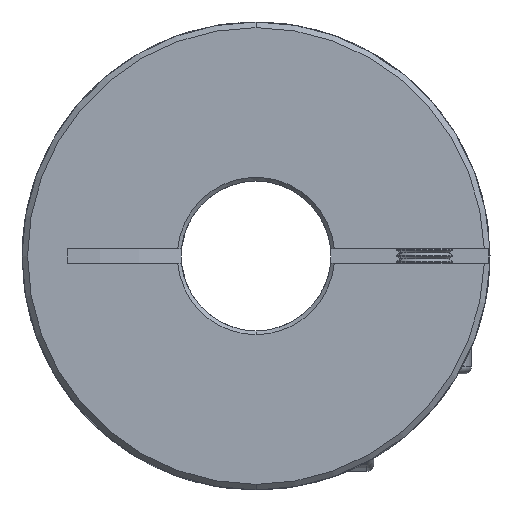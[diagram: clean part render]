
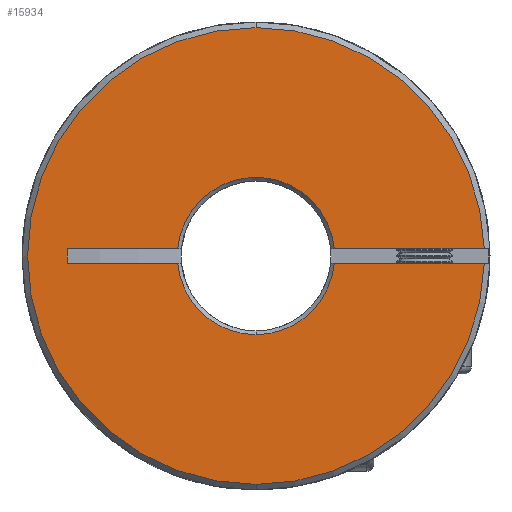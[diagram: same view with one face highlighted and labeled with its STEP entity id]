
A CAD part, front view. The second image highlights one B-rep face of the part: STEP entity #15934.
In plain terms, the highlighted planar face has unit normal (0, -1, 0).
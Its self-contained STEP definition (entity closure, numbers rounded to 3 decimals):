
#59 = DIRECTION ( 'NONE',  ( 0., 0., 1. ) ) ;
#293 = VECTOR ( 'NONE', #3725, 1000. ) ;
#366 = VECTOR ( 'NONE', #9851, 1000. ) ;
#463 = CARTESIAN_POINT ( 'NONE',  ( 0., 0., 24.4 ) ) ;
#530 = EDGE_CURVE ( 'NONE', #15262, #916, #11598, .T. ) ;
#544 = CARTESIAN_POINT ( 'NONE',  ( 24.388, 0., -0.75 ) ) ;
#587 = EDGE_CURVE ( 'NONE', #16908, #916, #10768, .T. ) ;
#796 = CARTESIAN_POINT ( 'NONE',  ( 0., 0., -24.4 ) ) ;
#916 = VERTEX_POINT ( 'NONE', #11571 ) ;
#1033 = AXIS2_PLACEMENT_3D ( 'NONE', #13501, #2606, #2674 ) ;
#1104 = CARTESIAN_POINT ( 'NONE',  ( 24.388, 0., 0.75 ) ) ;
#1202 = EDGE_CURVE ( 'NONE', #14370, #15262, #5256, .T. ) ;
#1333 = CARTESIAN_POINT ( 'NONE',  ( 0., 0., 0. ) ) ;
#1429 = CARTESIAN_POINT ( 'NONE',  ( 8.366, 0., -0.75 ) ) ;
#1492 = EDGE_CURVE ( 'NONE', #16476, #9334, #15177, .T. ) ;
#1570 = ORIENTED_EDGE ( 'NONE', *, *, #13848, .T. ) ;
#1710 = AXIS2_PLACEMENT_3D ( 'NONE', #5603, #4139, #59 ) ;
#1931 = CARTESIAN_POINT ( 'NONE',  ( -20.149, 0., -0.75 ) ) ;
#2477 = AXIS2_PLACEMENT_3D ( 'NONE', #1333, #13581, #6677 ) ;
#2509 = VERTEX_POINT ( 'NONE', #12536 ) ;
#2606 = DIRECTION ( 'NONE',  ( 0., 1., 0. ) ) ;
#2674 = DIRECTION ( 'NONE',  ( 0., 0., 1. ) ) ;
#2718 = AXIS2_PLACEMENT_3D ( 'NONE', #14842, #12279, #16252 ) ;
#2719 = VERTEX_POINT ( 'NONE', #3762 ) ;
#2785 = CARTESIAN_POINT ( 'NONE',  ( -50., 0., -0.75 ) ) ;
#2802 = CARTESIAN_POINT ( 'NONE',  ( 0., 0., 0. ) ) ;
#3282 = DIRECTION ( 'NONE',  ( 0., -1., 0. ) ) ;
#3351 = DIRECTION ( 'NONE',  ( 0., 1., 0. ) ) ;
#3725 = DIRECTION ( 'NONE',  ( 1., 0., 0. ) ) ;
#3762 = CARTESIAN_POINT ( 'NONE',  ( -8.366, 0., 0.75 ) ) ;
#3863 = AXIS2_PLACEMENT_3D ( 'NONE', #2802, #16384, #16270 ) ;
#4139 = DIRECTION ( 'NONE',  ( 0., 1., 0. ) ) ;
#4326 = LINE ( 'NONE', #10525, #293 ) ;
#4491 = EDGE_CURVE ( 'NONE', #2509, #2719, #15955, .T. ) ;
#4540 = ORIENTED_EDGE ( 'NONE', *, *, #1202, .T. ) ;
#5256 = CIRCLE ( 'NONE', #9752, 8.4 ) ;
#5328 = PLANE ( 'NONE',  #1710 ) ;
#5586 = AXIS2_PLACEMENT_3D ( 'NONE', #7324, #3282, #8639 ) ;
#5603 = CARTESIAN_POINT ( 'NONE',  ( -50., 0., 32.858 ) ) ;
#6044 = EDGE_CURVE ( 'NONE', #16908, #2509, #16973, .T. ) ;
#6079 = DIRECTION ( 'NONE',  ( 0., 0., 1. ) ) ;
#6132 = CIRCLE ( 'NONE', #5586, 24.4 ) ;
#6397 = CARTESIAN_POINT ( 'NONE',  ( -20.149, 0., -0.75 ) ) ;
#6677 = DIRECTION ( 'NONE',  ( 0., 0., 1. ) ) ;
#7324 = CARTESIAN_POINT ( 'NONE',  ( 0., 0., 0. ) ) ;
#7846 = VECTOR ( 'NONE', #8321, 1000. ) ;
#7947 = ORIENTED_EDGE ( 'NONE', *, *, #6044, .T. ) ;
#8321 = DIRECTION ( 'NONE',  ( 1., 0., 0. ) ) ;
#8639 = DIRECTION ( 'NONE',  ( 0., 0., 1. ) ) ;
#8685 = VECTOR ( 'NONE', #14905, 1000. ) ;
#8703 = CARTESIAN_POINT ( 'NONE',  ( 0., 0., 0. ) ) ;
#9124 = LINE ( 'NONE', #11030, #7846 ) ;
#9334 = VERTEX_POINT ( 'NONE', #463 ) ;
#9724 = CARTESIAN_POINT ( 'NONE',  ( 8.366, 0., 0.75 ) ) ;
#9752 = AXIS2_PLACEMENT_3D ( 'NONE', #8703, #3351, #10048 ) ;
#9851 = DIRECTION ( 'NONE',  ( 1., 0., 0. ) ) ;
#9856 = ORIENTED_EDGE ( 'NONE', *, *, #1492, .T. ) ;
#10048 = DIRECTION ( 'NONE',  ( 0., 0., 1. ) ) ;
#10068 = ORIENTED_EDGE ( 'NONE', *, *, #14347, .T. ) ;
#10128 = ORIENTED_EDGE ( 'NONE', *, *, #16600, .T. ) ;
#10525 = CARTESIAN_POINT ( 'NONE',  ( -50., 0., -0.75 ) ) ;
#10768 = LINE ( 'NONE', #2785, #8685 ) ;
#10943 = CIRCLE ( 'NONE', #3863, 24.4 ) ;
#11030 = CARTESIAN_POINT ( 'NONE',  ( -50., 0., 0.75 ) ) ;
#11302 = CARTESIAN_POINT ( 'NONE',  ( -50., 0., 0.75 ) ) ;
#11571 = CARTESIAN_POINT ( 'NONE',  ( -8.366, 0., -0.75 ) ) ;
#11598 = CIRCLE ( 'NONE', #2718, 8.4 ) ;
#12279 = DIRECTION ( 'NONE',  ( 0., 1., 0. ) ) ;
#12536 = CARTESIAN_POINT ( 'NONE',  ( -20.149, 0., 0.75 ) ) ;
#12921 = ORIENTED_EDGE ( 'NONE', *, *, #587, .F. ) ;
#12983 = VECTOR ( 'NONE', #6079, 1000. ) ;
#13158 = CARTESIAN_POINT ( 'NONE',  ( 0., 0., -8.4 ) ) ;
#13225 = ORIENTED_EDGE ( 'NONE', *, *, #15809, .F. ) ;
#13417 = CIRCLE ( 'NONE', #1033, 8.4 ) ;
#13501 = CARTESIAN_POINT ( 'NONE',  ( 0., 0., 0. ) ) ;
#13581 = DIRECTION ( 'NONE',  ( 0., -1., 0. ) ) ;
#13753 = FACE_OUTER_BOUND ( 'NONE', #14994, .T. ) ;
#13761 = ORIENTED_EDGE ( 'NONE', *, *, #16195, .T. ) ;
#13848 = EDGE_CURVE ( 'NONE', #15219, #13929, #10943, .T. ) ;
#13929 = VERTEX_POINT ( 'NONE', #544 ) ;
#14171 = ORIENTED_EDGE ( 'NONE', *, *, #530, .T. ) ;
#14341 = ORIENTED_EDGE ( 'NONE', *, *, #4491, .T. ) ;
#14347 = EDGE_CURVE ( 'NONE', #2719, #15455, #13417, .T. ) ;
#14370 = VERTEX_POINT ( 'NONE', #1429 ) ;
#14842 = CARTESIAN_POINT ( 'NONE',  ( 0., 0., 0. ) ) ;
#14905 = DIRECTION ( 'NONE',  ( 1., 0., 0. ) ) ;
#14994 = EDGE_LOOP ( 'NONE', ( #13225, #4540, #14171, #12921, #7947, #14341, #10068, #10128, #9856, #13761, #1570 ) ) ;
#15177 = CIRCLE ( 'NONE', #2477, 24.4 ) ;
#15219 = VERTEX_POINT ( 'NONE', #796 ) ;
#15262 = VERTEX_POINT ( 'NONE', #13158 ) ;
#15455 = VERTEX_POINT ( 'NONE', #9724 ) ;
#15809 = EDGE_CURVE ( 'NONE', #14370, #13929, #4326, .T. ) ;
#15934 = ADVANCED_FACE ( 'NONE', ( #13753 ), #5328, .F. ) ;
#15955 = LINE ( 'NONE', #11302, #366 ) ;
#16195 = EDGE_CURVE ( 'NONE', #9334, #15219, #6132, .T. ) ;
#16252 = DIRECTION ( 'NONE',  ( 0., 0., 1. ) ) ;
#16270 = DIRECTION ( 'NONE',  ( 0., 0., 1. ) ) ;
#16384 = DIRECTION ( 'NONE',  ( 0., -1., 0. ) ) ;
#16476 = VERTEX_POINT ( 'NONE', #1104 ) ;
#16600 = EDGE_CURVE ( 'NONE', #15455, #16476, #9124, .T. ) ;
#16908 = VERTEX_POINT ( 'NONE', #6397 ) ;
#16973 = LINE ( 'NONE', #1931, #12983 ) ;
